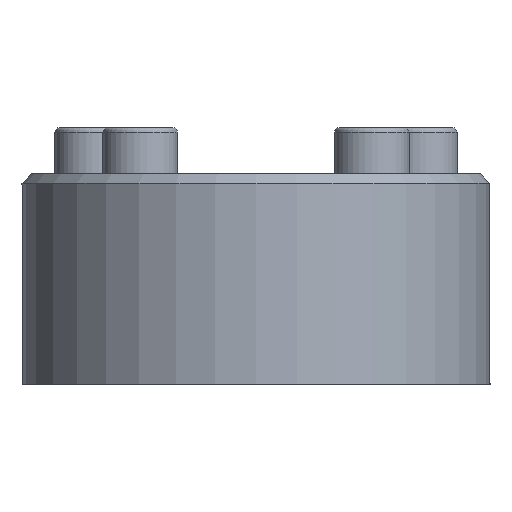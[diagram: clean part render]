
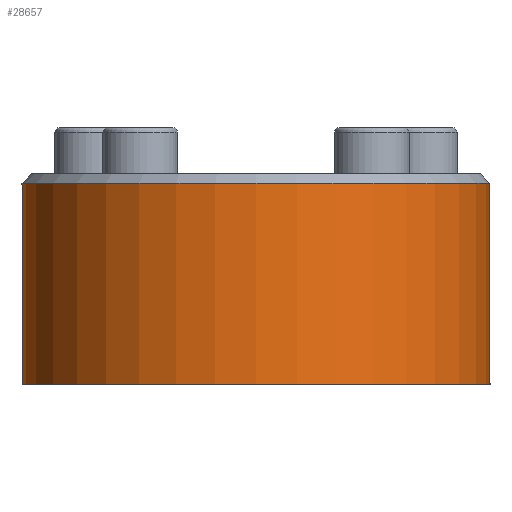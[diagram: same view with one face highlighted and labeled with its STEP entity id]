
A CAD part, front view. The second image highlights one B-rep face of the part: STEP entity #28657.
In plain terms, the highlighted cylindrical face has radius 50 mm (diameter 100 mm), a partial arc.
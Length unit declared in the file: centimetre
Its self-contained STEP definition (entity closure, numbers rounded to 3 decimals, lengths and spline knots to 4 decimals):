
#1693=CYLINDRICAL_SURFACE('',#29749,5.);
#4457=FACE_OUTER_BOUND('',#6071,.T.);
#6071=EDGE_LOOP('',(#25638,#25639,#25640,#25641));
#6289=LINE('',#35031,#9131);
#7012=LINE('',#38426,#9854);
#9131=VECTOR('',#29965,4.3);
#9854=VECTOR('',#30868,4.3);
#12021=CIRCLE('',#28924,5.);
#12025=CIRCLE('',#29750,5.);
#12053=VERTEX_POINT('',#35029);
#12054=VERTEX_POINT('',#35030);
#13173=VERTEX_POINT('',#38404);
#13178=VERTEX_POINT('',#38424);
#14677=EDGE_CURVE('',#12053,#12054,#6289,.T.);
#15807=EDGE_CURVE('',#13173,#12053,#12021,.T.);
#15817=EDGE_CURVE('',#13173,#13178,#7012,.T.);
#18213=EDGE_CURVE('',#12054,#13178,#12025,.T.);
#25638=ORIENTED_EDGE('',*,*,#15817,.T.);
#25639=ORIENTED_EDGE('',*,*,#18213,.F.);
#25640=ORIENTED_EDGE('',*,*,#14677,.F.);
#25641=ORIENTED_EDGE('',*,*,#15807,.F.);
#28657=ADVANCED_FACE('',(#4457),#1693,.T.);
#28924=AXIS2_PLACEMENT_3D('',#38406,#30845,#30846);
#29749=AXIS2_PLACEMENT_3D('',#47905,#34385,#34386);
#29750=AXIS2_PLACEMENT_3D('',#47906,#34387,#34388);
#29965=DIRECTION('',(0.,0.,1.));
#30845=DIRECTION('center_axis',(0.,0.,
-1.));
#30846=DIRECTION('ref_axis',(1.,0.,0.));
#30868=DIRECTION('',(0.,0.,1.));
#34385=DIRECTION('center_axis',(0.,0.,
-1.));
#34386=DIRECTION('ref_axis',(-1.,0.,0.));
#34387=DIRECTION('center_axis',(0.,0.,
1.));
#34388=DIRECTION('ref_axis',(-1.,0.,0.));
#35029=CARTESIAN_POINT('',(-5.,-25.5,-2.75));
#35030=CARTESIAN_POINT('',(-5.,-25.5,1.55));
#35031=CARTESIAN_POINT('',(-5.,-25.5,-2.75));
#38404=CARTESIAN_POINT('',(5.,-25.5,-2.75));
#38406=CARTESIAN_POINT('Origin',(0.,-25.5,
-2.75));
#38424=CARTESIAN_POINT('',(5.,-25.5,1.55));
#38426=CARTESIAN_POINT('',(5.,-25.5,-2.75));
#47905=CARTESIAN_POINT('Origin',(0.,-25.5,
1.75));
#47906=CARTESIAN_POINT('Origin',(0.,-25.5,
1.55));
